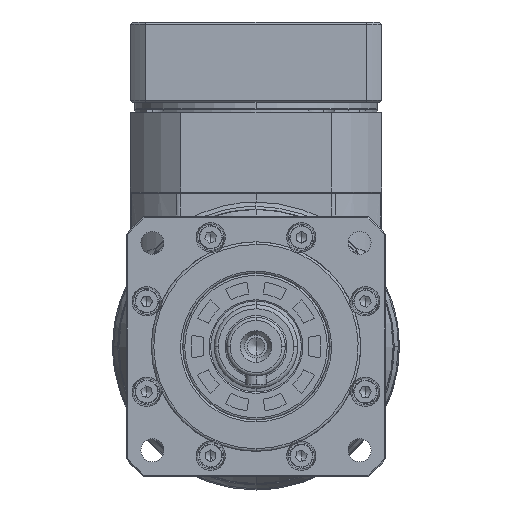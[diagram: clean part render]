
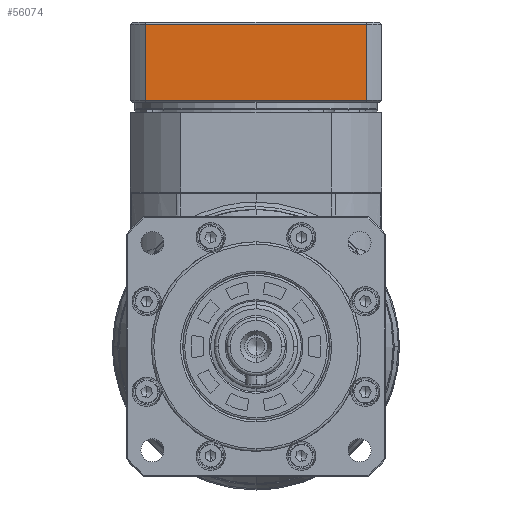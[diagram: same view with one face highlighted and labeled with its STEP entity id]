
A CAD part, left-side view. The second image highlights one B-rep face of the part: STEP entity #56074.
In plain terms, the highlighted planar face has unit normal (-1, 0, 0).
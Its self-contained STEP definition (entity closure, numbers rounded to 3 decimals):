
#342 = CARTESIAN_POINT ( 'NONE',  ( -66.465, -0.462, 129.831 ) ) ;
#2785 = VERTEX_POINT ( 'NONE', #12475 ) ;
#5602 = ORIENTED_EDGE ( 'NONE', *, *, #61718, .T. ) ;
#7639 = CARTESIAN_POINT ( 'NONE',  ( -66.465, -53.377, 111.631 ) ) ;
#9230 = FACE_OUTER_BOUND ( 'NONE', #80101, .T. ) ;
#10141 = CARTESIAN_POINT ( 'NONE',  ( -66.465, -0.462, 111.631 ) ) ;
#11799 = LINE ( 'NONE', #60653, #66111 ) ;
#12172 = LINE ( 'NONE', #44286, #64438 ) ;
#12174 = EDGE_CURVE ( 'NONE', #2785, #74401, #11799, .T. ) ;
#12475 = CARTESIAN_POINT ( 'NONE',  ( -66.465, -53.377, 129.831 ) ) ;
#13946 = VERTEX_POINT ( 'NONE', #10141 ) ;
#22743 = DIRECTION ( 'NONE',  ( 0., 0., 1. ) ) ;
#22936 = ORIENTED_EDGE ( 'NONE', *, *, #12174, .T. ) ;
#24721 = LINE ( 'NONE', #43473, #69557 ) ;
#27107 = DIRECTION ( 'NONE',  ( -1., 0., 0. ) ) ;
#28333 = DIRECTION ( 'NONE',  ( 0., 0., -1. ) ) ;
#30472 = DIRECTION ( 'NONE',  ( 0., -1., 0. ) ) ;
#30900 = DIRECTION ( 'NONE',  ( 0., 1., 0. ) ) ;
#31233 = AXIS2_PLACEMENT_3D ( 'NONE', #45457, #27107, #64626 ) ;
#36401 = ORIENTED_EDGE ( 'NONE', *, *, #70564, .T. ) ;
#43473 = CARTESIAN_POINT ( 'NONE',  ( -66.465, -0.462, 120.731 ) ) ;
#44286 = CARTESIAN_POINT ( 'NONE',  ( -66.465, -26.92, 111.631 ) ) ;
#45457 = CARTESIAN_POINT ( 'NONE',  ( -66.465, -53.377, 111.631 ) ) ;
#52395 = PLANE ( 'NONE',  #31233 ) ;
#55588 = VECTOR ( 'NONE', #22743, 1000. ) ;
#56074 = ADVANCED_FACE ( 'NONE', ( #9230 ), #52395, .T. ) ;
#60653 = CARTESIAN_POINT ( 'NONE',  ( -66.465, -26.92, 129.831 ) ) ;
#61718 = EDGE_CURVE ( 'NONE', #74401, #13946, #24721, .T. ) ;
#64438 = VECTOR ( 'NONE', #30472, 1000. ) ;
#64626 = DIRECTION ( 'NONE',  ( 0., 0., 1. ) ) ;
#64884 = VERTEX_POINT ( 'NONE', #7639 ) ;
#65355 = ORIENTED_EDGE ( 'NONE', *, *, #80483, .T. ) ;
#66111 = VECTOR ( 'NONE', #30900, 1000. ) ;
#69557 = VECTOR ( 'NONE', #28333, 1000. ) ;
#70564 = EDGE_CURVE ( 'NONE', #64884, #2785, #79376, .T. ) ;
#74401 = VERTEX_POINT ( 'NONE', #342 ) ;
#78567 = CARTESIAN_POINT ( 'NONE',  ( -66.465, -53.377, 120.731 ) ) ;
#79376 = LINE ( 'NONE', #78567, #55588 ) ;
#80101 = EDGE_LOOP ( 'NONE', ( #22936, #5602, #65355, #36401 ) ) ;
#80483 = EDGE_CURVE ( 'NONE', #13946, #64884, #12172, .T. ) ;
